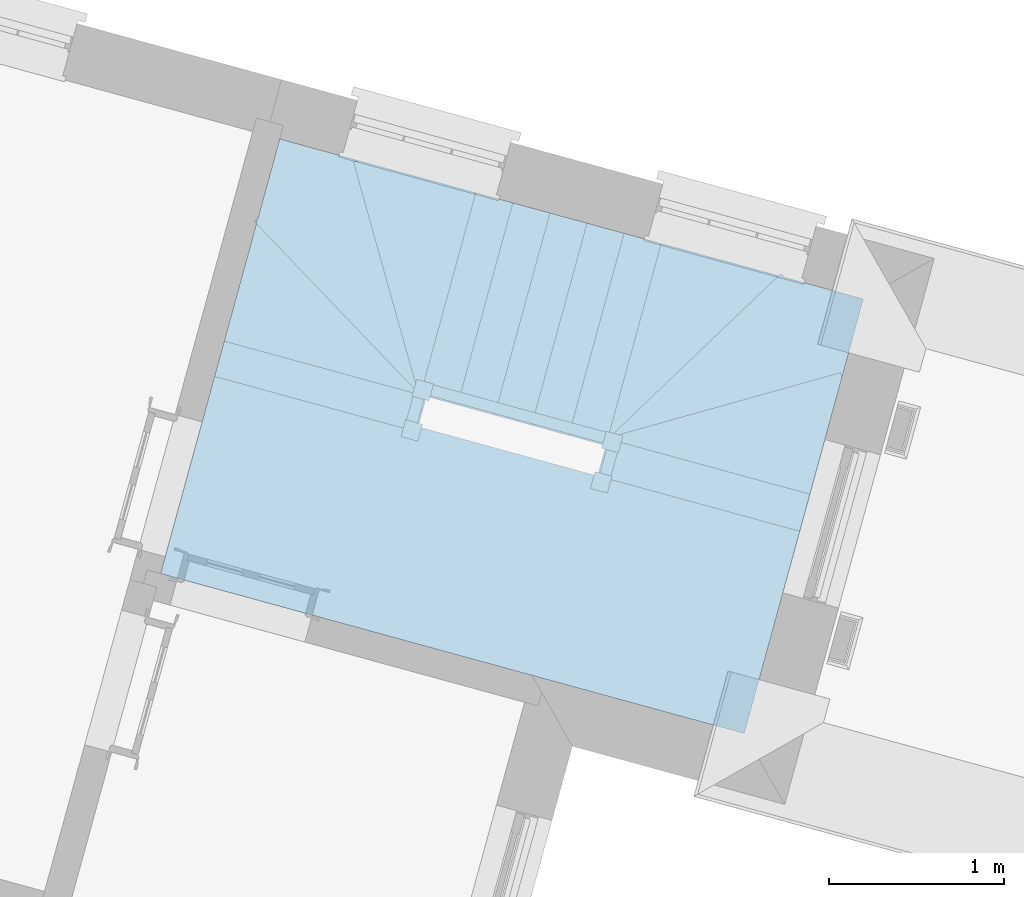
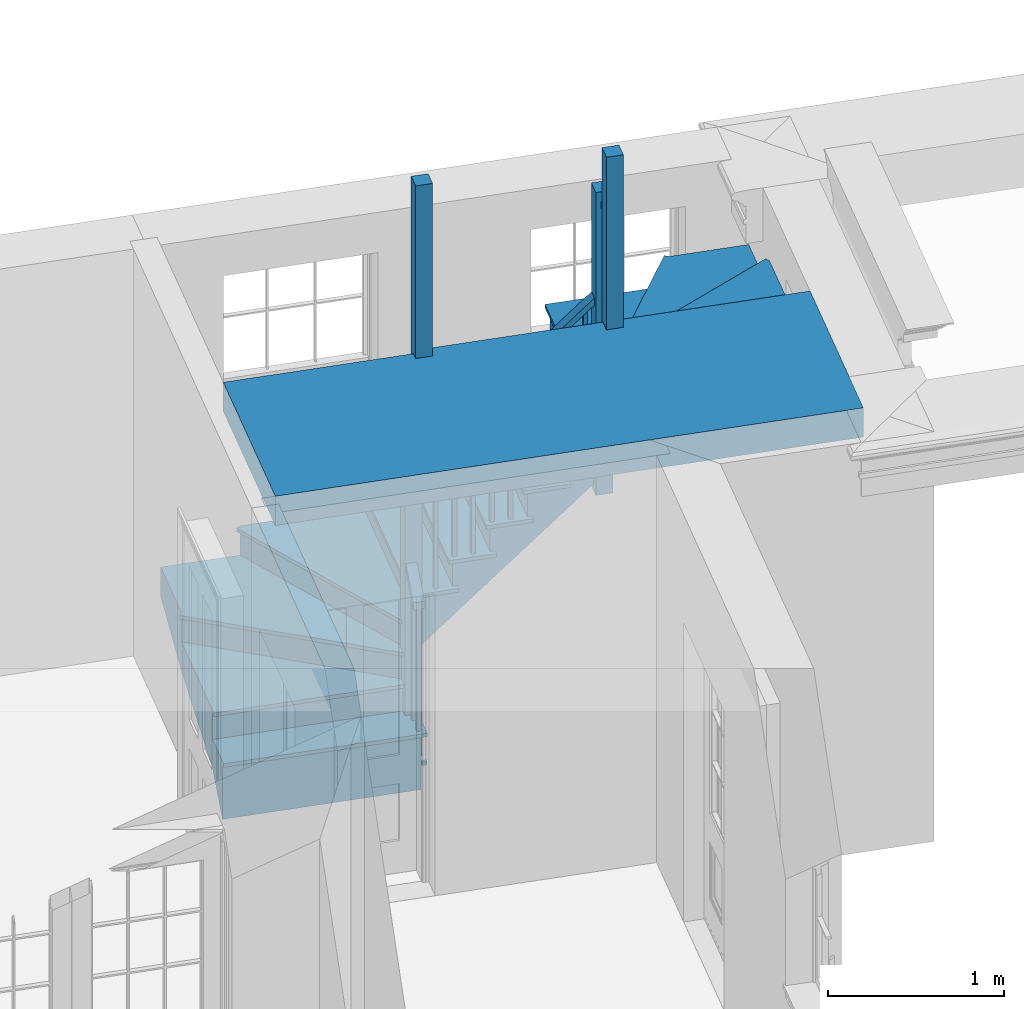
# One storey, part 7 of 7: 1 stair.
"""IFC4 building model written with IfcOpenShell, lengths in metres."""

from ifc_helpers import new_model, si_unit, frame, origin, origin_with_axes, place, context, subcontext, project, spatial, faceted_brep, element, save


model = new_model("IFC4")

# Units and contexts
model_context = context("Model", 3, world=origin_with_axes())
body_context = subcontext(model_context, "Body", "Model", "MODEL_VIEW")
ifc_project = project(units=[si_unit("PLANEANGLEUNIT", "RADIAN"), si_unit("MASSUNIT", "GRAM", prefix="KILO"), si_unit("FORCEUNIT", "NEWTON", prefix="KILO"), si_unit("LENGTHUNIT", "METRE"), si_unit("AREAUNIT", "SQUARE_METRE"), si_unit("VOLUMEUNIT", "CUBIC_METRE")], contexts=[model_context, model_context])

# Sites, building, storey
site_1_placement = place(None, origin_with_axes())
site_1 = spatial("IfcSite", under=ifc_project, at=site_1_placement, Name="Tamar")
site_2_placement = place(site_1_placement, origin_with_axes())
site_2 = spatial("IfcSite", under=site_1, at=site_2_placement, Name="Site plot-29", CompositionType="ELEMENT")
building_placement = place(None, origin_with_axes())
building = spatial("IfcBuilding", under=site_2, at=building_placement, Name="Building plot-29", CompositionType="ELEMENT")
storey_placement = place(None, frame((0.0, 0.0, 25.0), z_axis=(0.0, 0.0, 1.0), x_axis=(1.0, 0.0, 0.0)))
storey = spatial("IfcBuildingStorey", under=building, at=storey_placement, Name="plot-29 0", CompositionType="ELEMENT", Elevation=25.0)

# Stair
stair_placement = place(None, origin())
element("IfcStair", 1, at=stair_placement, inside=storey, Name="Stair", PredefinedType="NOTDEFINED", context=body_context, shape_type="Brep", body=[
    faceted_brep([(276.181255, 263.110223, 27.646429), (277.309664, 262.801045, 27.646429), (277.367801, 263.013224, 27.646429), (276.239391, 263.322403, 27.646429), (276.239391, 263.322403, 27.239286), (277.367801, 263.013224, 27.239286), (277.309664, 262.801045, 27.442857), (276.181255, 263.110223, 27.442857)], [[[0, 1, 2, 3]], [[4, 5, 6, 7]], [[7, 6, 1, 0]], [[1, 6, 5, 2]], [[5, 4, 3, 2]], [[3, 4, 7, 0]]]),
    faceted_brep([(277.367801, 263.013224, 27.621429), (277.375728, 263.042158, 27.621429), (277.367801, 263.013224, 27.646429), (277.301737, 262.772111, 27.621429), (277.309664, 262.801045, 27.621429), (277.309664, 262.801045, 27.646429), (277.375728, 263.042158, 27.646429), (277.301737, 262.772111, 27.646429), (276.218385, 263.359264, 27.646429), (276.239391, 263.322403, 27.646429), (276.239391, 263.322403, 27.621429), (276.218385, 263.359264, 27.621429), (276.144393, 263.089217, 27.646429), (276.181255, 263.110223, 27.646429), (276.181255, 263.110223, 27.621429), (276.144393, 263.089217, 27.621429)], [[[0, 1, 2]], [[3, 4, 5]], [[1, 6, 2]], [[7, 3, 5]], [[2, 6, 8, 9]], [[0, 2, 9, 10]], [[1, 0, 10, 11]], [[6, 1, 11, 8]], [[9, 8, 12, 13]], [[10, 9, 13, 14]], [[11, 10, 14, 15]], [[8, 11, 15, 12]], [[13, 12, 7, 5]], [[14, 13, 5, 4]], [[15, 14, 4, 3]], [[12, 15, 3, 7]]]),
    faceted_brep([(276.239391, 263.322403, 28.546429), (276.232784, 263.298292, 28.546429), (276.256896, 263.291685, 28.546429), (276.263502, 263.315796, 28.546429), (276.263502, 263.315796, 27.646429), (276.256896, 263.291685, 27.646429), (276.232784, 263.298292, 27.646429), (276.239391, 263.322403, 27.646429)], [[[0, 1, 2, 3]], [[4, 5, 6, 7]], [[7, 6, 1, 0]], [[6, 5, 2, 1]], [[5, 4, 3, 2]], [[4, 7, 0, 3]]]),
    faceted_brep([(276.210323, 263.216313, 28.648214), (276.203716, 263.192202, 28.648214), (276.227828, 263.185595, 28.648214), (276.234434, 263.209707, 28.648214), (276.234434, 263.209707, 27.646429), (276.227828, 263.185595, 27.646429), (276.203716, 263.192202, 27.646429), (276.210323, 263.216313, 27.646429)], [[[0, 1, 2, 3]], [[4, 5, 6, 7]], [[7, 6, 1, 0]], [[6, 5, 2, 1]], [[5, 4, 3, 2]], [[4, 7, 0, 3]]]),
    faceted_brep([(276.282791, 263.310511, 28.496429), (276.220102, 263.327688, 28.496429), (276.220102, 263.327688, 28.546429), (276.282791, 263.310511, 28.546429), (276.161966, 263.115508, 28.7), (276.224655, 263.098332, 28.7), (276.224655, 263.098332, 28.75), (276.161966, 263.115508, 28.75)], [[[0, 1, 2, 3]], [[4, 5, 6, 7]], [[0, 5, 4, 1]], [[3, 2, 7, 6]], [[0, 3, 6, 5]], [[2, 1, 4, 7]]]),
    faceted_brep([(276.239391, 263.322403, 27.442857), (277.367801, 263.013224, 27.442857), (277.372849, 263.031651, 27.442857), (276.24444, 263.340829, 27.442857), (276.24444, 263.340829, 27.239286), (277.372849, 263.031651, 27.239286), (277.367801, 263.013224, 27.239286), (276.239391, 263.322403, 27.239286)], [[[0, 1, 2, 3]], [[4, 5, 6, 7]], [[7, 6, 1, 0]], [[6, 5, 2, 1]], [[5, 4, 3, 2]], [[4, 7, 0, 3]]]),
    faceted_brep([(276.215506, 263.348757, 27.417857), (276.215506, 263.348757, 27.442857), (276.24444, 263.340829, 27.417857), (276.210457, 263.330331, 27.442857), (276.210457, 263.330331, 27.417857), (276.239391, 263.322403, 27.417857), (276.24444, 263.340829, 27.442857), (276.239391, 263.322403, 27.442857)], [[[0, 1, 2]], [[3, 4, 5]], [[2, 1, 6]], [[3, 5, 7]], [[6, 1, 3, 7]], [[2, 6, 7, 5]], [[0, 2, 5, 4]], [[1, 0, 4, 3]]]),
    faceted_brep([(276.20943, 263.402265, 28.642857), (276.183004, 263.30582, 28.642857), (276.279449, 263.279394, 28.642857), (276.305875, 263.375839, 28.642857), (276.305875, 263.375839, 27.442857), (276.279449, 263.279394, 27.442857), (276.183004, 263.30582, 27.442857), (276.20943, 263.402265, 27.442857)], [[[0, 1, 2, 3]], [[4, 5, 6, 7]], [[7, 6, 1, 0]], [[6, 5, 2, 1]], [[5, 4, 3, 2]], [[4, 7, 0, 3]]]),
    faceted_brep([(277.372849, 263.031651, 27.442857), (277.558357, 263.708697, 27.442857), (276.24444, 263.340829, 27.442857), (276.24444, 263.340829, 27.035714), (277.558357, 263.708697, 27.035714), (277.372849, 263.031651, 27.239286)], [[[0, 1, 2]], [[3, 4, 5]], [[0, 5, 4, 1]], [[4, 3, 2, 1]], [[2, 3, 5, 0]]]),
    faceted_brep([(277.550268, 263.737586, 27.417857), (277.550268, 263.737586, 27.442857), (277.558357, 263.708697, 27.417857), (276.236351, 263.369719, 27.442857), (276.236351, 263.369719, 27.417857), (276.24444, 263.340829, 27.417857), (277.558357, 263.708697, 27.442857), (276.24444, 263.340829, 27.442857)], [[[0, 1, 2]], [[3, 4, 5]], [[2, 1, 6]], [[3, 5, 7]], [[6, 1, 3, 7]], [[2, 6, 7, 5]], [[0, 2, 5, 4]], [[1, 0, 4, 3]]]),
    faceted_brep([(277.558357, 263.708697, 27.239286), (277.682028, 264.16006, 27.239286), (277.230664, 264.283732, 27.239286), (276.24444, 263.340829, 27.239286), (276.24444, 263.340829, 26.832143), (277.230664, 264.283732, 26.832143), (277.682028, 264.16006, 27.035714), (277.558357, 263.708697, 27.035714)], [[[0, 1, 2, 3]], [[4, 5, 6, 7]], [[7, 6, 1, 0]], [[1, 6, 5, 2]], [[5, 4, 3, 2]], [[3, 4, 7, 0]]]),
    faceted_brep([(277.209933, 264.305416, 27.214286), (277.209933, 264.305416, 27.239286), (277.230664, 264.283732, 27.214286), (276.223708, 263.362514, 27.239286), (276.223708, 263.362514, 27.214286), (276.24444, 263.340829, 27.214286), (277.230664, 264.283732, 27.239286), (276.24444, 263.340829, 27.239286)], [[[0, 1, 2]], [[3, 4, 5]], [[2, 1, 6]], [[3, 5, 7]], [[6, 1, 3, 7]], [[2, 6, 7, 5]], [[0, 2, 5, 4]], [[1, 0, 4, 3]]]),
    faceted_brep([(277.230664, 264.283732, 27.035714), (276.553618, 264.469239, 27.035714), (276.24444, 263.340829, 27.035714), (276.24444, 263.340829, 26.628571), (276.553618, 264.469239, 26.628571), (277.230664, 264.283732, 26.832143)], [[[0, 1, 2]], [[3, 4, 5]], [[0, 5, 4, 1]], [[4, 3, 2, 1]], [[2, 3, 5, 0]]]),
    faceted_brep([(276.553618, 264.469239, 27.010714), (276.524685, 264.477167, 27.010714), (276.553618, 264.469239, 27.035714), (276.215506, 263.348757, 27.010714), (276.24444, 263.340829, 27.010714), (276.24444, 263.340829, 27.035714), (276.524685, 264.477167, 27.035714), (276.215506, 263.348757, 27.035714)], [[[0, 1, 2]], [[3, 4, 5]], [[1, 6, 2]], [[7, 3, 5]], [[2, 6, 7, 5]], [[0, 2, 5, 4]], [[1, 0, 4, 3]], [[6, 1, 3, 7]]]),
    faceted_brep([(276.20943, 263.402265, 27.442857), (276.183004, 263.30582, 27.442857), (276.279449, 263.279394, 27.442857), (276.305875, 263.375839, 27.442857), (276.305875, 263.375839, 26.535714), (276.279449, 263.279394, 26.535714), (276.183004, 263.30582, 26.535714), (276.20943, 263.402265, 26.535714)], [[[0, 1, 2, 3]], [[4, 5, 6, 7]], [[7, 6, 1, 0]], [[6, 5, 2, 1]], [[5, 4, 3, 2]], [[4, 7, 0, 3]]]),
    faceted_brep([(276.24444, 263.340829, 26.832143), (276.553618, 264.469239, 26.832143), (276.341439, 264.527375, 26.832143), (276.03226, 263.398966, 26.832143), (276.03226, 263.398966, 26.425), (276.341439, 264.527375, 26.425), (276.553618, 264.469239, 26.628571), (276.24444, 263.340829, 26.628571)], [[[0, 1, 2, 3]], [[4, 5, 6, 7]], [[7, 6, 1, 0]], [[1, 6, 5, 2]], [[5, 4, 3, 2]], [[3, 4, 7, 0]]]),
    faceted_brep([(276.312505, 264.535303, 26.807143), (276.312505, 264.535303, 26.832143), (276.341439, 264.527375, 26.807143), (276.582552, 264.461312, 26.832143), (276.582552, 264.461312, 26.807143), (276.553618, 264.469239, 26.807143), (276.341439, 264.527375, 26.832143), (276.553618, 264.469239, 26.832143), (275.995399, 263.37796, 26.832143), (276.03226, 263.398966, 26.832143), (276.03226, 263.398966, 26.807143), (275.995399, 263.37796, 26.807143), (276.265446, 263.303968, 26.832143), (276.24444, 263.340829, 26.832143), (276.24444, 263.340829, 26.807143), (276.265446, 263.303968, 26.807143)], [[[0, 1, 2]], [[3, 4, 5]], [[2, 1, 6]], [[3, 5, 7]], [[6, 1, 8, 9]], [[2, 6, 9, 10]], [[0, 2, 10, 11]], [[1, 0, 11, 8]], [[9, 8, 12, 13]], [[10, 9, 13, 14]], [[11, 10, 14, 15]], [[8, 11, 15, 12]], [[13, 12, 3, 7]], [[14, 13, 7, 5]], [[15, 14, 5, 4]], [[12, 15, 4, 3]]]),
    faceted_brep([(276.03226, 263.398966, 27.732143), (276.056371, 263.392359, 27.732143), (276.062978, 263.416471, 27.732143), (276.038866, 263.423077, 27.732143), (276.038866, 263.423077, 26.832143), (276.062978, 263.416471, 26.832143), (276.056371, 263.392359, 26.832143), (276.03226, 263.398966, 26.832143)], [[[0, 1, 2, 3]], [[4, 5, 6, 7]], [[7, 6, 1, 0]], [[6, 5, 2, 1]], [[5, 4, 3, 2]], [[4, 7, 0, 3]]]),
    faceted_brep([(276.13835, 263.369898, 27.833929), (276.162461, 263.363291, 27.833929), (276.169067, 263.387402, 27.833929), (276.144956, 263.394009, 27.833929), (276.144956, 263.394009, 26.832143), (276.169067, 263.387402, 26.832143), (276.162461, 263.363291, 26.832143), (276.13835, 263.369898, 26.832143)], [[[0, 1, 2, 3]], [[4, 5, 6, 7]], [[7, 6, 1, 0]], [[6, 5, 2, 1]], [[5, 4, 3, 2]], [[4, 7, 0, 3]]]),
    faceted_brep([(276.044151, 263.442366, 27.682143), (276.026975, 263.379677, 27.682143), (276.026975, 263.379677, 27.732143), (276.044151, 263.442366, 27.732143), (276.239154, 263.32154, 27.885714), (276.256331, 263.38423, 27.885714), (276.256331, 263.38423, 27.935714), (276.239154, 263.32154, 27.935714)], [[[0, 1, 2, 3]], [[4, 5, 6, 7]], [[0, 5, 4, 1]], [[3, 2, 7, 6]], [[0, 3, 6, 5]], [[2, 1, 4, 7]]]),
    faceted_brep([(276.03226, 263.398966, 26.628571), (276.341439, 264.527375, 26.628571), (276.129259, 264.585512, 26.628571), (275.82008, 263.457102, 26.628571), (275.82008, 263.457102, 26.221429), (276.129259, 264.585512, 26.221429), (276.341439, 264.527375, 26.425), (276.03226, 263.398966, 26.425)], [[[0, 1, 2, 3]], [[4, 5, 6, 7]], [[7, 6, 1, 0]], [[1, 6, 5, 2]], [[5, 4, 3, 2]], [[3, 4, 7, 0]]]),
    faceted_brep([(276.100325, 264.593439, 26.603571), (276.100325, 264.593439, 26.628571), (276.129259, 264.585512, 26.603571), (276.370372, 264.519448, 26.628571), (276.370372, 264.519448, 26.603571), (276.341439, 264.527375, 26.603571), (276.129259, 264.585512, 26.628571), (276.341439, 264.527375, 26.628571), (275.783219, 263.436096, 26.628571), (275.82008, 263.457102, 26.628571), (275.82008, 263.457102, 26.603571), (275.783219, 263.436096, 26.603571), (276.053266, 263.362104, 26.628571), (276.03226, 263.398966, 26.628571), (276.03226, 263.398966, 26.603571), (276.053266, 263.362104, 26.603571)], [[[0, 1, 2]], [[3, 4, 5]], [[2, 1, 6]], [[3, 5, 7]], [[6, 1, 8, 9]], [[2, 6, 9, 10]], [[0, 2, 10, 11]], [[1, 0, 11, 8]], [[9, 8, 12, 13]], [[10, 9, 13, 14]], [[11, 10, 14, 15]], [[8, 11, 15, 12]], [[13, 12, 3, 7]], [[14, 13, 7, 5]], [[15, 14, 5, 4]], [[12, 15, 4, 3]]]),
    faceted_brep([(275.82008, 263.457102, 27.528571), (275.844192, 263.450495, 27.528571), (275.850798, 263.474607, 27.528571), (275.826687, 263.481213, 27.528571), (275.826687, 263.481213, 26.628571), (275.850798, 263.474607, 26.628571), (275.844192, 263.450495, 26.628571), (275.82008, 263.457102, 26.628571)], [[[0, 1, 2, 3]], [[4, 5, 6, 7]], [[7, 6, 1, 0]], [[6, 5, 2, 1]], [[5, 4, 3, 2]], [[4, 7, 0, 3]]]),
    faceted_brep([(275.92617, 263.428034, 27.630357), (275.950281, 263.421427, 27.630357), (275.956888, 263.445539, 27.630357), (275.932777, 263.452145, 27.630357), (275.932777, 263.452145, 26.628571), (275.956888, 263.445539, 26.628571), (275.950281, 263.421427, 26.628571), (275.92617, 263.428034, 26.628571)], [[[0, 1, 2, 3]], [[4, 5, 6, 7]], [[7, 6, 1, 0]], [[6, 5, 2, 1]], [[5, 4, 3, 2]], [[4, 7, 0, 3]]]),
    faceted_brep([(275.831972, 263.500502, 27.478571), (275.814795, 263.437813, 27.478571), (275.814795, 263.437813, 27.528571), (275.831972, 263.500502, 27.528571), (276.026975, 263.379677, 27.682143), (276.044151, 263.442366, 27.682143), (276.044151, 263.442366, 27.732143), (276.026975, 263.379677, 27.732143)], [[[0, 1, 2, 3]], [[4, 5, 6, 7]], [[0, 5, 4, 1]], [[3, 2, 7, 6]], [[0, 3, 6, 5]], [[2, 1, 4, 7]]]),
    faceted_brep([(275.82008, 263.457102, 26.425), (276.129259, 264.585512, 26.425), (275.917079, 264.643648, 26.425), (275.607901, 263.515238, 26.425), (275.607901, 263.515238, 26.017857), (275.917079, 264.643648, 26.017857), (276.129259, 264.585512, 26.221429), (275.82008, 263.457102, 26.221429)], [[[0, 1, 2, 3]], [[4, 5, 6, 7]], [[7, 6, 1, 0]], [[1, 6, 5, 2]], [[5, 4, 3, 2]], [[3, 4, 7, 0]]]),
    faceted_brep([(275.917079, 264.643648, 26.4), (275.888146, 264.651575, 26.4), (275.917079, 264.643648, 26.425), (276.158193, 264.577584, 26.4), (276.129259, 264.585512, 26.4), (276.129259, 264.585512, 26.425), (275.888146, 264.651575, 26.425), (276.158193, 264.577584, 26.425), (275.57104, 263.494232, 26.425), (275.607901, 263.515238, 26.425), (275.607901, 263.515238, 26.4), (275.57104, 263.494232, 26.4), (275.841086, 263.420241, 26.425), (275.82008, 263.457102, 26.425), (275.82008, 263.457102, 26.4), (275.841086, 263.420241, 26.4)], [[[0, 1, 2]], [[3, 4, 5]], [[1, 6, 2]], [[7, 3, 5]], [[2, 6, 8, 9]], [[0, 2, 9, 10]], [[1, 0, 10, 11]], [[6, 1, 11, 8]], [[9, 8, 12, 13]], [[10, 9, 13, 14]], [[11, 10, 14, 15]], [[8, 11, 15, 12]], [[13, 12, 7, 5]], [[14, 13, 5, 4]], [[15, 14, 4, 3]], [[12, 15, 3, 7]]]),
    faceted_brep([(275.607901, 263.515238, 27.325), (275.632012, 263.508632, 27.325), (275.638618, 263.532743, 27.325), (275.614507, 263.539349, 27.325), (275.614507, 263.539349, 26.425), (275.638618, 263.532743, 26.425), (275.632012, 263.508632, 26.425), (275.607901, 263.515238, 26.425)], [[[0, 1, 2, 3]], [[4, 5, 6, 7]], [[7, 6, 1, 0]], [[6, 5, 2, 1]], [[5, 4, 3, 2]], [[4, 7, 0, 3]]]),
    faceted_brep([(275.713991, 263.48617, 27.426786), (275.738102, 263.479563, 27.426786), (275.744708, 263.503675, 27.426786), (275.720597, 263.510281, 27.426786), (275.720597, 263.510281, 26.425), (275.744708, 263.503675, 26.425), (275.738102, 263.479563, 26.425), (275.713991, 263.48617, 26.425)], [[[0, 1, 2, 3]], [[4, 5, 6, 7]], [[7, 6, 1, 0]], [[6, 5, 2, 1]], [[5, 4, 3, 2]], [[4, 7, 0, 3]]]),
    faceted_brep([(275.619792, 263.558638, 27.275), (275.602616, 263.495949, 27.275), (275.602616, 263.495949, 27.325), (275.619792, 263.558638, 27.325), (275.814795, 263.437813, 27.478571), (275.831972, 263.500502, 27.478571), (275.831972, 263.500502, 27.528571), (275.814795, 263.437813, 27.528571)], [[[0, 1, 2, 3]], [[4, 5, 6, 7]], [[0, 5, 4, 1]], [[3, 2, 7, 6]], [[0, 3, 6, 5]], [[2, 1, 4, 7]]]),
    faceted_brep([(275.607901, 263.515238, 26.221429), (275.917079, 264.643648, 26.221429), (275.7049, 264.701784, 26.221429), (275.395721, 263.573374, 26.221429), (275.395721, 263.573374, 25.814286), (275.7049, 264.701784, 25.814286), (275.917079, 264.643648, 26.017857), (275.607901, 263.515238, 26.017857)], [[[0, 1, 2, 3]], [[4, 5, 6, 7]], [[7, 6, 1, 0]], [[1, 6, 5, 2]], [[5, 4, 3, 2]], [[3, 4, 7, 0]]]),
    faceted_brep([(275.675966, 264.709711, 26.196429), (275.675966, 264.709711, 26.221429), (275.7049, 264.701784, 26.196429), (275.946013, 264.63572, 26.221429), (275.946013, 264.63572, 26.196429), (275.917079, 264.643648, 26.196429), (275.7049, 264.701784, 26.221429), (275.917079, 264.643648, 26.221429), (275.35886, 263.552368, 26.221429), (275.395721, 263.573374, 26.221429), (275.395721, 263.573374, 26.196429), (275.35886, 263.552368, 26.196429), (275.628907, 263.478377, 26.221429), (275.607901, 263.515238, 26.221429), (275.607901, 263.515238, 26.196429), (275.628907, 263.478377, 26.196429)], [[[0, 1, 2]], [[3, 4, 5]], [[2, 1, 6]], [[3, 5, 7]], [[6, 1, 8, 9]], [[2, 6, 9, 10]], [[0, 2, 10, 11]], [[1, 0, 11, 8]], [[9, 8, 12, 13]], [[10, 9, 13, 14]], [[11, 10, 14, 15]], [[8, 11, 15, 12]], [[13, 12, 3, 7]], [[14, 13, 7, 5]], [[15, 14, 5, 4]], [[12, 15, 4, 3]]]),
    faceted_brep([(275.395721, 263.573374, 27.121429), (275.419832, 263.566768, 27.121429), (275.426439, 263.590879, 27.121429), (275.402328, 263.597485, 27.121429), (275.402328, 263.597485, 26.221429), (275.426439, 263.590879, 26.221429), (275.419832, 263.566768, 26.221429), (275.395721, 263.573374, 26.221429)], [[[0, 1, 2, 3]], [[4, 5, 6, 7]], [[7, 6, 1, 0]], [[6, 5, 2, 1]], [[5, 4, 3, 2]], [[4, 7, 0, 3]]]),
    faceted_brep([(275.501811, 263.544306, 27.223214), (275.525922, 263.5377, 27.223214), (275.532529, 263.561811, 27.223214), (275.508417, 263.568417, 27.223214), (275.508417, 263.568417, 26.221429), (275.532529, 263.561811, 26.221429), (275.525922, 263.5377, 26.221429), (275.501811, 263.544306, 26.221429)], [[[0, 1, 2, 3]], [[4, 5, 6, 7]], [[7, 6, 1, 0]], [[6, 5, 2, 1]], [[5, 4, 3, 2]], [[4, 7, 0, 3]]]),
    faceted_brep([(275.407613, 263.616774, 27.071429), (275.390436, 263.554085, 27.071429), (275.390436, 263.554085, 27.121429), (275.407613, 263.616774, 27.121429), (275.602616, 263.495949, 27.275), (275.619792, 263.558638, 27.275), (275.619792, 263.558638, 27.325), (275.602616, 263.495949, 27.325)], [[[0, 1, 2, 3]], [[4, 5, 6, 7]], [[0, 5, 4, 1]], [[3, 2, 7, 6]], [[0, 3, 6, 5]], [[2, 1, 4, 7]]]),
    faceted_brep([(275.395721, 263.573374, 26.017857), (275.7049, 264.701784, 26.017857), (275.49272, 264.75992, 26.017857), (275.183542, 263.63151, 26.017857), (275.183542, 263.63151, 25.610714), (275.49272, 264.75992, 25.610714), (275.7049, 264.701784, 25.814286), (275.395721, 263.573374, 25.814286)], [[[0, 1, 2, 3]], [[4, 5, 6, 7]], [[7, 6, 1, 0]], [[1, 6, 5, 2]], [[5, 4, 3, 2]], [[3, 4, 7, 0]]]),
    faceted_brep([(275.49272, 264.75992, 25.992857), (275.463787, 264.767848, 25.992857), (275.49272, 264.75992, 26.017857), (275.733833, 264.693856, 25.992857), (275.7049, 264.701784, 25.992857), (275.7049, 264.701784, 26.017857), (275.463787, 264.767848, 26.017857), (275.733833, 264.693856, 26.017857), (275.14668, 263.610504, 26.017857), (275.183542, 263.63151, 26.017857), (275.183542, 263.63151, 25.992857), (275.14668, 263.610504, 25.992857), (275.416727, 263.536513, 26.017857), (275.395721, 263.573374, 26.017857), (275.395721, 263.573374, 25.992857), (275.416727, 263.536513, 25.992857)], [[[0, 1, 2]], [[3, 4, 5]], [[1, 6, 2]], [[7, 3, 5]], [[2, 6, 8, 9]], [[0, 2, 9, 10]], [[1, 0, 10, 11]], [[6, 1, 11, 8]], [[9, 8, 12, 13]], [[10, 9, 13, 14]], [[11, 10, 14, 15]], [[8, 11, 15, 12]], [[13, 12, 7, 5]], [[14, 13, 5, 4]], [[15, 14, 4, 3]], [[12, 15, 3, 7]]]),
    faceted_brep([(275.183542, 263.63151, 26.917857), (275.207653, 263.624904, 26.917857), (275.214259, 263.649015, 26.917857), (275.190148, 263.655622, 26.917857), (275.190148, 263.655622, 26.017857), (275.214259, 263.649015, 26.017857), (275.207653, 263.624904, 26.017857), (275.183542, 263.63151, 26.017857)], [[[0, 1, 2, 3]], [[4, 5, 6, 7]], [[7, 6, 1, 0]], [[6, 5, 2, 1]], [[5, 4, 3, 2]], [[4, 7, 0, 3]]]),
    faceted_brep([(275.289631, 263.602442, 27.019643), (275.313743, 263.595836, 27.019643), (275.320349, 263.619947, 27.019643), (275.296238, 263.626554, 27.019643), (275.296238, 263.626554, 26.017857), (275.320349, 263.619947, 26.017857), (275.313743, 263.595836, 26.017857), (275.289631, 263.602442, 26.017857)], [[[0, 1, 2, 3]], [[4, 5, 6, 7]], [[7, 6, 1, 0]], [[6, 5, 2, 1]], [[5, 4, 3, 2]], [[4, 7, 0, 3]]]),
    faceted_brep([(275.195433, 263.674911, 26.867857), (275.178256, 263.612221, 26.867857), (275.178256, 263.612221, 26.917857), (275.195433, 263.674911, 26.917857), (275.390436, 263.554085, 27.071429), (275.407613, 263.616774, 27.071429), (275.407613, 263.616774, 27.121429), (275.390436, 263.554085, 27.121429)], [[[0, 1, 2, 3]], [[4, 5, 6, 7]], [[0, 5, 4, 1]], [[3, 2, 7, 6]], [[0, 3, 6, 5]], [[2, 1, 4, 7]]]),
    faceted_brep([(275.183542, 263.63151, 25.814286), (275.49272, 264.75992, 25.814286), (275.469751, 264.766213, 25.814286), (275.160573, 263.637804, 25.814286), (275.160573, 263.637804, 25.610714), (275.469751, 264.766213, 25.610714), (275.49272, 264.75992, 25.610714), (275.183542, 263.63151, 25.610714)], [[[0, 1, 2, 3]], [[4, 5, 6, 7]], [[7, 6, 1, 0]], [[6, 5, 2, 1]], [[5, 4, 3, 2]], [[4, 7, 0, 3]]]),
    faceted_brep([(275.152645, 263.60887, 25.789286), (275.152645, 263.60887, 25.814286), (275.160573, 263.637804, 25.789286), (275.175614, 263.602577, 25.814286), (275.175614, 263.602577, 25.789286), (275.183542, 263.63151, 25.789286), (275.160573, 263.637804, 25.814286), (275.183542, 263.63151, 25.814286)], [[[0, 1, 2]], [[3, 4, 5]], [[2, 1, 6]], [[3, 5, 7]], [[6, 1, 3, 7]], [[2, 6, 7, 5]], [[0, 2, 5, 4]], [[1, 0, 4, 3]]]),
    faceted_brep([(275.099137, 263.602794, 27.014286), (275.195582, 263.576368, 27.014286), (275.222008, 263.672814, 27.014286), (275.125563, 263.699239, 27.014286), (275.125563, 263.699239, 25.814286), (275.222008, 263.672814, 25.814286), (275.195582, 263.576368, 25.814286), (275.099137, 263.602794, 25.814286)], [[[0, 1, 2, 3]], [[4, 5, 6, 7]], [[7, 6, 1, 0]], [[6, 5, 2, 1]], [[5, 4, 3, 2]], [[4, 7, 0, 3]]]),
    faceted_brep([(275.469751, 264.766213, 25.814286), (274.792705, 264.951721, 25.814286), (275.160573, 263.637804, 25.814286), (275.160573, 263.637804, 25.407143), (274.792705, 264.951721, 25.407143), (275.469751, 264.766213, 25.610714)], [[[0, 1, 2]], [[3, 4, 5]], [[0, 5, 4, 1]], [[4, 3, 2, 1]], [[2, 3, 5, 0]]]),
    faceted_brep([(274.792705, 264.951721, 25.789286), (274.763816, 264.943632, 25.789286), (274.792705, 264.951721, 25.814286), (275.131683, 263.629715, 25.789286), (275.160573, 263.637804, 25.789286), (275.160573, 263.637804, 25.814286), (274.763816, 264.943632, 25.814286), (275.131683, 263.629715, 25.814286)], [[[0, 1, 2]], [[3, 4, 5]], [[1, 6, 2]], [[7, 3, 5]], [[2, 6, 7, 5]], [[0, 2, 5, 4]], [[1, 0, 4, 3]], [[6, 1, 3, 7]]]),
    faceted_brep([(274.792705, 264.951721, 25.610714), (274.341342, 265.075392, 25.610714), (274.21767, 264.624028, 25.610714), (275.160573, 263.637804, 25.610714), (275.160573, 263.637804, 25.203571), (274.21767, 264.624028, 25.203571), (274.341342, 265.075392, 25.407143), (274.792705, 264.951721, 25.407143)], [[[0, 1, 2, 3]], [[4, 5, 6, 7]], [[7, 6, 1, 0]], [[1, 6, 5, 2]], [[5, 4, 3, 2]], [[3, 4, 7, 0]]]),
    faceted_brep([(274.21767, 264.624028, 25.585714), (274.195986, 264.603297, 25.585714), (274.21767, 264.624028, 25.610714), (275.138888, 263.617072, 25.585714), (275.160573, 263.637804, 25.585714), (275.160573, 263.637804, 25.610714), (274.195986, 264.603297, 25.610714), (275.138888, 263.617072, 25.610714)], [[[0, 1, 2]], [[3, 4, 5]], [[1, 6, 2]], [[7, 3, 5]], [[2, 6, 7, 5]], [[0, 2, 5, 4]], [[1, 0, 4, 3]], [[6, 1, 3, 7]]]),
    faceted_brep([(274.21767, 264.624028, 25.407143), (274.032163, 263.946982, 25.407143), (275.160573, 263.637804, 25.407143), (275.160573, 263.637804, 25.0), (274.032163, 263.946982, 25.0), (274.21767, 264.624028, 25.203571)], [[[0, 1, 2]], [[3, 4, 5]], [[0, 5, 4, 1]], [[4, 3, 2, 1]], [[2, 3, 5, 0]]]),
    faceted_brep([(274.032163, 263.946982, 25.382143), (274.024235, 263.918049, 25.382143), (274.032163, 263.946982, 25.407143), (275.152645, 263.60887, 25.382143), (275.160573, 263.637804, 25.382143), (275.160573, 263.637804, 25.407143), (274.024235, 263.918049, 25.407143), (275.152645, 263.60887, 25.407143)], [[[0, 1, 2]], [[3, 4, 5]], [[1, 6, 2]], [[7, 3, 5]], [[2, 6, 7, 5]], [[0, 2, 5, 4]], [[1, 0, 4, 3]], [[6, 1, 3, 7]]]),
    faceted_brep([(275.099137, 263.602794, 25.814286), (275.195582, 263.576368, 25.814286), (275.222008, 263.672814, 25.814286), (275.125563, 263.699239, 25.814286), (275.125563, 263.699239, 24.907143), (275.222008, 263.672814, 24.907143), (275.195582, 263.576368, 24.907143), (275.099137, 263.602794, 24.907143)], [[[0, 1, 2, 3]], [[4, 5, 6, 7]], [[7, 6, 1, 0]], [[6, 5, 2, 1]], [[5, 4, 3, 2]], [[4, 7, 0, 3]]]),
    faceted_brep([(275.160573, 263.637804, 25.203571), (274.032163, 263.946982, 25.203571), (273.974027, 263.734803, 25.203571), (275.102436, 263.425624, 25.203571), (275.102436, 263.425624, 24.796429), (273.974027, 263.734803, 24.796429), (274.032163, 263.946982, 25.0), (275.160573, 263.637804, 25.0)], [[[0, 1, 2, 3]], [[4, 5, 6, 7]], [[7, 6, 1, 0]], [[1, 6, 5, 2]], [[5, 4, 3, 2]], [[3, 4, 7, 0]]]),
    faceted_brep([(273.974027, 263.734803, 25.178571), (273.966099, 263.705869, 25.178571), (273.974027, 263.734803, 25.203571), (274.040091, 263.975916, 25.178571), (274.032163, 263.946982, 25.178571), (274.032163, 263.946982, 25.203571), (273.966099, 263.705869, 25.203571), (274.040091, 263.975916, 25.203571), (275.123442, 263.388763, 25.203571), (275.102436, 263.425624, 25.203571), (275.102436, 263.425624, 25.178571), (275.123442, 263.388763, 25.178571), (275.197434, 263.65881, 25.203571), (275.160573, 263.637804, 25.203571), (275.160573, 263.637804, 25.178571), (275.197434, 263.65881, 25.178571)], [[[0, 1, 2]], [[3, 4, 5]], [[1, 6, 2]], [[7, 3, 5]], [[2, 6, 8, 9]], [[0, 2, 9, 10]], [[1, 0, 10, 11]], [[6, 1, 11, 8]], [[9, 8, 12, 13]], [[10, 9, 13, 14]], [[11, 10, 14, 15]], [[8, 11, 15, 12]], [[13, 12, 7, 5]], [[14, 13, 5, 4]], [[15, 14, 4, 3]], [[12, 15, 3, 7]]]),
    faceted_brep([(275.102436, 263.425624, 26.103571), (275.109043, 263.449735, 26.103571), (275.084931, 263.456342, 26.103571), (275.078325, 263.43223, 26.103571), (275.078325, 263.43223, 25.203571), (275.084931, 263.456342, 25.203571), (275.109043, 263.449735, 25.203571), (275.102436, 263.425624, 25.203571)], [[[0, 1, 2, 3]], [[4, 5, 6, 7]], [[7, 6, 1, 0]], [[6, 5, 2, 1]], [[5, 4, 3, 2]], [[4, 7, 0, 3]]]),
    faceted_brep([(275.131504, 263.531714, 26.205357), (275.138111, 263.555825, 26.205357), (275.114, 263.562432, 26.205357), (275.107393, 263.53832, 26.205357), (275.107393, 263.53832, 25.203571), (275.114, 263.562432, 25.203571), (275.138111, 263.555825, 25.203571), (275.131504, 263.531714, 25.203571)], [[[0, 1, 2, 3]], [[4, 5, 6, 7]], [[7, 6, 1, 0]], [[6, 5, 2, 1]], [[5, 4, 3, 2]], [[4, 7, 0, 3]]]),
    faceted_brep([(275.059036, 263.437516, 26.053571), (275.121725, 263.420339, 26.053571), (275.121725, 263.420339, 26.103571), (275.059036, 263.437516, 26.103571), (275.179862, 263.632519, 26.257143), (275.117172, 263.649695, 26.257143), (275.117172, 263.649695, 26.307143), (275.179862, 263.632519, 26.307143)], [[[0, 1, 2, 3]], [[4, 5, 6, 7]], [[0, 5, 4, 1]], [[3, 2, 7, 6]], [[0, 3, 6, 5]], [[2, 1, 4, 7]]]),
    faceted_brep([(275.126321, 263.39927, 24.975), (275.126321, 263.39927, 25.0), (275.097388, 263.407197, 24.975), (275.13137, 263.417696, 25.0), (275.13137, 263.417696, 24.975), (275.102436, 263.425624, 24.975), (275.097388, 263.407197, 25.0), (275.102436, 263.425624, 25.0)], [[[0, 1, 2]], [[3, 4, 5]], [[2, 1, 6]], [[3, 5, 7]], [[6, 1, 3, 7]], [[2, 6, 7, 5]], [[0, 2, 5, 4]], [[1, 0, 4, 3]]]),
    faceted_brep([(275.132397, 263.345762, 29.05), (275.158823, 263.442207, 29.05), (275.062378, 263.468633, 29.05), (275.035952, 263.372188, 29.05), (275.035952, 263.372188, 27.85), (275.062378, 263.468633, 27.85), (275.158823, 263.442207, 27.85), (275.132397, 263.345762, 27.85)], [[[0, 1, 2, 3]], [[4, 5, 6, 7]], [[7, 6, 1, 0]], [[6, 5, 2, 1]], [[5, 4, 3, 2]], [[4, 7, 0, 3]]]),
    faceted_brep([(275.097388, 263.407197, 27.85), (273.968978, 263.716376, 27.85), (273.659799, 262.587966, 27.85), (274.788209, 262.278788, 27.85), (274.788209, 262.278788, 27.646429), (273.659799, 262.587966, 27.646429), (273.968978, 263.716376, 27.646429), (275.097388, 263.407197, 27.646429)], [[[0, 1, 2, 3]], [[4, 5, 6, 7]], [[7, 6, 1, 0]], [[6, 5, 2, 1]], [[5, 4, 3, 2]], [[4, 7, 0, 3]]]),
    faceted_brep([(274.817142, 262.27086, 27.825), (274.817142, 262.27086, 27.85), (274.788209, 262.278788, 27.825), (275.126321, 263.39927, 27.85), (275.126321, 263.39927, 27.825), (275.097388, 263.407197, 27.825), (274.788209, 262.278788, 27.85), (275.097388, 263.407197, 27.85)], [[[0, 1, 2]], [[3, 4, 5]], [[2, 1, 6]], [[3, 5, 7]], [[6, 1, 3, 7]], [[2, 6, 7, 5]], [[0, 2, 5, 4]], [[1, 0, 4, 3]]]),
    faceted_brep([(275.132397, 263.345762, 27.85), (275.158823, 263.442207, 27.85), (275.062378, 263.468633, 27.85), (275.035952, 263.372188, 27.85), (275.035952, 263.372188, 27.35), (275.062378, 263.468633, 27.35), (275.158823, 263.442207, 27.35), (275.132397, 263.345762, 27.35)], [[[0, 1, 2, 3]], [[4, 5, 6, 7]], [[7, 6, 1, 0]], [[6, 5, 2, 1]], [[5, 4, 3, 2]], [[4, 7, 0, 3]]]),
    faceted_brep([(275.097388, 263.407197, 27.85), (274.788209, 262.278788, 27.85), (275.872076, 261.981814, 27.85), (276.181255, 263.110223, 27.85), (276.181255, 263.110223, 27.646429), (275.872076, 261.981814, 27.646429), (274.788209, 262.278788, 27.646429), (275.097388, 263.407197, 27.646429)], [[[0, 1, 2, 3]], [[4, 5, 6, 7]], [[7, 6, 1, 0]], [[6, 5, 2, 1]], [[5, 4, 3, 2]], [[4, 7, 0, 3]]]),
    faceted_brep([(276.181255, 263.110223, 27.825), (276.189182, 263.139157, 27.825), (276.181255, 263.110223, 27.85), (275.105315, 263.436131, 27.825), (275.097388, 263.407197, 27.825), (275.097388, 263.407197, 27.85), (276.189182, 263.139157, 27.85), (275.105315, 263.436131, 27.85)], [[[0, 1, 2]], [[3, 4, 5]], [[1, 6, 2]], [[7, 3, 5]], [[2, 6, 7, 5]], [[0, 2, 5, 4]], [[1, 0, 4, 3]], [[6, 1, 3, 7]]]),
    faceted_brep([(276.24269, 263.145233, 29.05), (276.146245, 263.171659, 29.05), (276.119819, 263.075213, 29.05), (276.216264, 263.048788, 29.05), (276.216264, 263.048788, 27.85), (276.119819, 263.075213, 27.85), (276.146245, 263.171659, 27.85), (276.24269, 263.145233, 27.85)], [[[0, 1, 2, 3]], [[4, 5, 6, 7]], [[7, 6, 1, 0]], [[6, 5, 2, 1]], [[5, 4, 3, 2]], [[4, 7, 0, 3]]]),
    faceted_brep([(276.181255, 263.110223, 27.85), (275.872076, 261.981814, 27.85), (277.000486, 261.672635, 27.85), (277.309664, 262.801045, 27.85), (277.309664, 262.801045, 27.646429), (277.000486, 261.672635, 27.646429), (275.872076, 261.981814, 27.646429), (276.181255, 263.110223, 27.646429)], [[[0, 1, 2, 3]], [[4, 5, 6, 7]], [[7, 6, 1, 0]], [[6, 5, 2, 1]], [[5, 4, 3, 2]], [[4, 7, 0, 3]]]),
    faceted_brep([(277.317592, 262.829978, 27.825), (277.317592, 262.829978, 27.85), (277.309664, 262.801045, 27.825), (276.189182, 263.139157, 27.85), (276.189182, 263.139157, 27.825), (276.181255, 263.110223, 27.825), (277.309664, 262.801045, 27.85), (276.181255, 263.110223, 27.85)], [[[0, 1, 2]], [[3, 4, 5]], [[2, 1, 6]], [[3, 5, 7]], [[6, 1, 3, 7]], [[2, 6, 7, 5]], [[0, 2, 5, 4]], [[1, 0, 4, 3]]]),
    faceted_brep([(276.24269, 263.145233, 27.85), (276.146245, 263.171659, 27.85), (276.119819, 263.075213, 27.85), (276.216264, 263.048788, 27.85), (276.216264, 263.048788, 27.35), (276.119819, 263.075213, 27.35), (276.146245, 263.171659, 27.35), (276.24269, 263.145233, 27.35)], [[[0, 1, 2, 3]], [[4, 5, 6, 7]], [[7, 6, 1, 0]], [[6, 5, 2, 1]], [[5, 4, 3, 2]], [[4, 7, 0, 3]]]),
])

save(model, "model.ifc")
